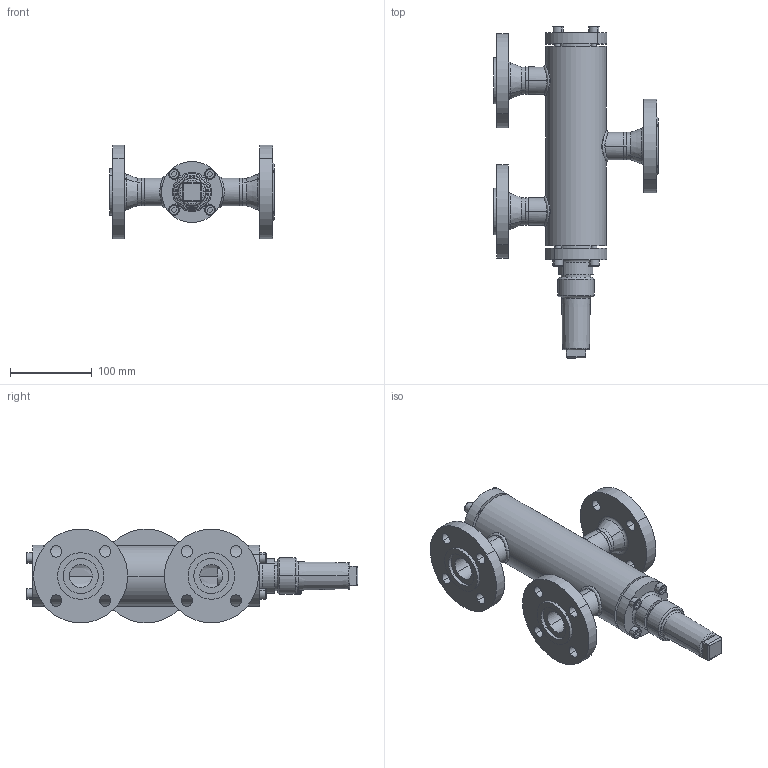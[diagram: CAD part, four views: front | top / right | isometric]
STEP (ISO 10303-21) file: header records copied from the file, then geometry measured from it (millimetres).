
FILE_DESCRIPTION (( 'STEP AP214' ), '1' );
FILE_NAME ('WVR24020D12-DN025_DIN-FL-N-F_PS40.STEP', '2010-09-08T08:48:42', ( 'Eckhard Grams' ), ( 'AWP Kälte Klima Armaturen GmbH' ), 'SwSTEP 2.0', 'SolidWorks 2002296', '' );
FILE_SCHEMA (( 'AUTOMOTIVE_DESIGN' ));
Length unit declared in the file: millimetre
Products named in the file (17): WVR24020D12-DN025_DIN-FL-N-F_PS40; Kappe 16402-13_DN10-32 (M36x2)_Standard; AVR26300E13_Deck+Schr-DN25-32_Standard; Deckel26300E13-DN25-32_Standard; Geh,kpl24020E12-DN25_DIN-FL-N-F_PS40_Standard; Flansch-DIN2635-Feder_PS40_DIN-Flansch-DN025_PS40-Feder; Geh,kpl24000E12_DN25_R1_PS40_Standard; Gehäuse24000E12-DN25_R1_PS40_Standard; Rohrstutzen-24000E12-DN25_R1_Standard; Schw-24000E12-DN25_Standard; Flansch-DIN2635-Nut_PS40_DIN-Flansch-DN025_PS40-Nut; beadC4020-12-3_Standard; beadC4020-12-2_Standard; beadC4020-12-1_Standard; WVB-R23000E13_Deck+Schr-DN25-32_Standard; Deckel23000E13-DN25-32_Standard; Zylinderschraube-DIN912_M 8x  25
Assembly tree (28 placements, depth 4):
  WVR24020D12-DN025_DIN-FL-N-F_PS40
    Kappe 16402-13_DN10-32 (M36x2)_Standard
    Geh,kpl24020E12-DN25_DIN-FL-N-F_PS40_Standard
      Geh,kpl24000E12_DN25_R1_PS40_Standard
        Rohrstutzen-24000E12-DN25_R1_Standard  x3
        Schw-24000E12-DN25_Standard  x3
        Gehäuse24000E12-DN25_R1_PS40_Standard
      beadC4020-12-2_Standard
      beadC4020-12-1_Standard
      Flansch-DIN2635-Nut_PS40_DIN-Flansch-DN025_PS40-Nut
      Flansch-DIN2635-Feder_PS40_DIN-Flansch-DN025_PS40-Feder  x2
      beadC4020-12-3_Standard
    WVB-R23000E13_Deck+Schr-DN25-32_Standard
      Deckel23000E13-DN25-32_Standard
      Zylinderschraube-DIN912_M 8x  25  x4
    AVR26300E13_Deck+Schr-DN25-32_Standard
      Zylinderschraube-DIN912_M 8x  25  x4
      Deckel26300E13-DN25-32_Standard
Bounding box: 202 x 406.5 x 114.56 mm (x, y, z)
Volume: 1411736.9 mm3; surface area: 285128.2 mm2
Topology: 24 solids, 24 shells, 503 faces, 1161 edges, 731 vertices
Faces by surface type: cylinder 218, plane 143, cone 65, torus 43, bspline 34
Entity records: 26985 total; most frequent: CARTESIAN_POINT 18740, DIRECTION 1561, ORIENTED_EDGE 1478, EDGE_CURVE 739, AXIS2_PLACEMENT_3D 665, VERTEX_POINT 465, EDGE_LOOP 380, CIRCLE 346
